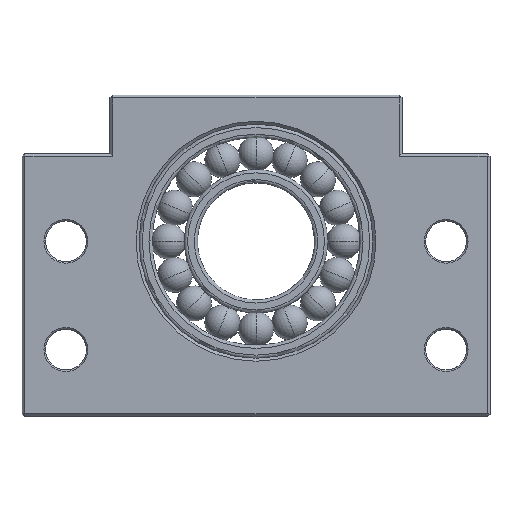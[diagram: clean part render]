
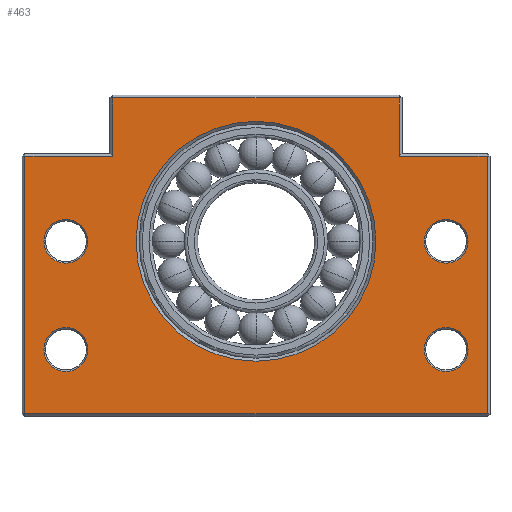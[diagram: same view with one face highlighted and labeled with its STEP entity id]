
A CAD part, top view. The second image highlights one B-rep face of the part: STEP entity #463.
In plain terms, the highlighted planar face has unit normal (0, 0, 1).
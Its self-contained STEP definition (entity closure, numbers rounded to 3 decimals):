
#463=ADVANCED_FACE('',(#1586,#1588,#1590,#1592,#1594,#1596),#1598,.T.);
#1586=FACE_BOUND('',#1587,.T.);
#1587=EDGE_LOOP('',(#2436,#2437,#2438,#2439,#2440,#2441,#2442,#2443));
#1588=FACE_BOUND('',#1589,.T.);
#1589=EDGE_LOOP('',(#2444));
#1590=FACE_BOUND('',#1591,.T.);
#1591=EDGE_LOOP('',(#2445));
#1592=FACE_BOUND('',#1593,.T.);
#1593=EDGE_LOOP('',(#2446));
#1594=FACE_BOUND('',#1595,.T.);
#1595=EDGE_LOOP('',(#2447));
#1596=FACE_BOUND('',#1597,.T.);
#1597=EDGE_LOOP('',(#2448));
#1598=PLANE('',#1599);
#1599=AXIS2_PLACEMENT_3D('',#1600,#1601,#1602);
#1600=CARTESIAN_POINT('',(-80.,0.,18.5));
#1601=DIRECTION('',(-0.,0.,1.));
#1602=DIRECTION('',(1.,0.,0.));
#2436=ORIENTED_EDGE('',*,*,#2785,.T.);
#2437=ORIENTED_EDGE('',*,*,#2786,.T.);
#2438=ORIENTED_EDGE('',*,*,#2787,.T.);
#2439=ORIENTED_EDGE('',*,*,#2788,.T.);
#2440=ORIENTED_EDGE('',*,*,#2789,.T.);
#2441=ORIENTED_EDGE('',*,*,#2790,.T.);
#2442=ORIENTED_EDGE('',*,*,#2791,.T.);
#2443=ORIENTED_EDGE('',*,*,#2792,.T.);
#2444=ORIENTED_EDGE('',*,*,#2739,.T.);
#2445=ORIENTED_EDGE('',*,*,#2736,.T.);
#2446=ORIENTED_EDGE('',*,*,#2733,.T.);
#2447=ORIENTED_EDGE('',*,*,#2730,.T.);
#2448=ORIENTED_EDGE('',*,*,#2760,.T.);
#2730=EDGE_CURVE('',#2923,#2923,#2924,.T.);
#2733=EDGE_CURVE('',#2929,#2929,#2930,.T.);
#2736=EDGE_CURVE('',#2935,#2935,#2936,.T.);
#2739=EDGE_CURVE('',#2941,#2941,#2942,.T.);
#2760=EDGE_CURVE('',#2983,#2983,#2984,.T.);
#2785=EDGE_CURVE('',#3033,#3034,#3035,.T.);
#2786=EDGE_CURVE('',#3034,#3036,#3037,.T.);
#2787=EDGE_CURVE('',#3036,#3038,#3039,.T.);
#2788=EDGE_CURVE('',#3038,#3040,#3041,.T.);
#2789=EDGE_CURVE('',#3040,#3042,#3043,.T.);
#2790=EDGE_CURVE('',#3042,#3044,#3045,.T.);
#2791=EDGE_CURVE('',#3044,#3046,#3047,.T.);
#2792=EDGE_CURVE('',#3046,#3033,#3048,.T.);
#2923=VERTEX_POINT('',#3267);
#2924=CIRCLE('',#3268,7.5);
#2929=VERTEX_POINT('',#3282);
#2930=CIRCLE('',#3283,7.5);
#2935=VERTEX_POINT('',#3297);
#2936=CIRCLE('',#3298,7.5);
#2941=VERTEX_POINT('',#3312);
#2942=CIRCLE('',#3313,7.5);
#2983=VERTEX_POINT('',#3720);
#2984=CIRCLE('',#3721,41.);
#3033=VERTEX_POINT('',#5781);
#3034=VERTEX_POINT('',#5782);
#3035=LINE('',#5783,#5784);
#3036=VERTEX_POINT('',#5786);
#3037=LINE('',#5787,#5788);
#3038=VERTEX_POINT('',#5790);
#3039=LINE('',#5791,#5792);
#3040=VERTEX_POINT('',#5794);
#3041=LINE('',#5795,#5796);
#3042=VERTEX_POINT('',#5798);
#3043=LINE('',#5799,#5800);
#3044=VERTEX_POINT('',#5802);
#3045=LINE('',#5803,#5804);
#3046=VERTEX_POINT('',#5806);
#3047=LINE('',#5807,#5808);
#3048=LINE('',#5810,#5811);
#3267=CARTESIAN_POINT('',(-57.5,60.,18.5));
#3268=AXIS2_PLACEMENT_3D('',#3269,#3270,#3271);
#3269=CARTESIAN_POINT('',(-65.,60.,18.5));
#3270=DIRECTION('',(0.,-0.,-1.));
#3271=DIRECTION('',(1.,0.,0.));
#3282=CARTESIAN_POINT('',(-57.5,23.,18.5));
#3283=AXIS2_PLACEMENT_3D('',#3284,#3285,#3286);
#3284=CARTESIAN_POINT('',(-65.,23.,18.5));
#3285=DIRECTION('',(0.,-0.,-1.));
#3286=DIRECTION('',(1.,0.,0.));
#3297=CARTESIAN_POINT('',(72.5,60.,18.5));
#3298=AXIS2_PLACEMENT_3D('',#3299,#3300,#3301);
#3299=CARTESIAN_POINT('',(65.,60.,18.5));
#3300=DIRECTION('',(0.,-0.,-1.));
#3301=DIRECTION('',(1.,0.,0.));
#3312=CARTESIAN_POINT('',(72.5,23.,18.5));
#3313=AXIS2_PLACEMENT_3D('',#3314,#3315,#3316);
#3314=CARTESIAN_POINT('',(65.,23.,18.5));
#3315=DIRECTION('',(0.,-0.,-1.));
#3316=DIRECTION('',(1.,0.,0.));
#3720=CARTESIAN_POINT('',(41.,60.,18.5));
#3721=AXIS2_PLACEMENT_3D('',#3722,#3723,#3724);
#3722=CARTESIAN_POINT('',(0.,60.,18.5));
#3723=DIRECTION('',(0.,-0.,-1.));
#3724=DIRECTION('',(1.,0.,0.));
#5781=CARTESIAN_POINT('',(49.,109.,18.5));
#5782=CARTESIAN_POINT('',(-49.,109.,18.5));
#5783=CARTESIAN_POINT('',(49.,109.,18.5));
#5784=VECTOR('',#5785,1.);
#5785=DIRECTION('',(-1.,0.,0.));
#5786=CARTESIAN_POINT('',(-49.,89.,18.5));
#5787=CARTESIAN_POINT('',(-49.,109.,18.5));
#5788=VECTOR('',#5789,1.);
#5789=DIRECTION('',(0.,-1.,0.));
#5790=CARTESIAN_POINT('',(-79.,89.,18.5));
#5791=CARTESIAN_POINT('',(-49.,89.,18.5));
#5792=VECTOR('',#5793,1.);
#5793=DIRECTION('',(-1.,0.,0.));
#5794=CARTESIAN_POINT('',(-79.,1.,18.5));
#5795=CARTESIAN_POINT('',(-79.,89.,18.5));
#5796=VECTOR('',#5797,1.);
#5797=DIRECTION('',(0.,-1.,0.));
#5798=CARTESIAN_POINT('',(79.,1.,18.5));
#5799=CARTESIAN_POINT('',(-79.,1.,18.5));
#5800=VECTOR('',#5801,1.);
#5801=DIRECTION('',(1.,0.,0.));
#5802=CARTESIAN_POINT('',(79.,89.,18.5));
#5803=CARTESIAN_POINT('',(79.,1.,18.5));
#5804=VECTOR('',#5805,1.);
#5805=DIRECTION('',(0.,1.,0.));
#5806=CARTESIAN_POINT('',(49.,89.,18.5));
#5807=CARTESIAN_POINT('',(79.,89.,18.5));
#5808=VECTOR('',#5809,1.);
#5809=DIRECTION('',(-1.,0.,0.));
#5810=CARTESIAN_POINT('',(49.,89.,18.5));
#5811=VECTOR('',#5812,1.);
#5812=DIRECTION('',(0.,1.,0.));
